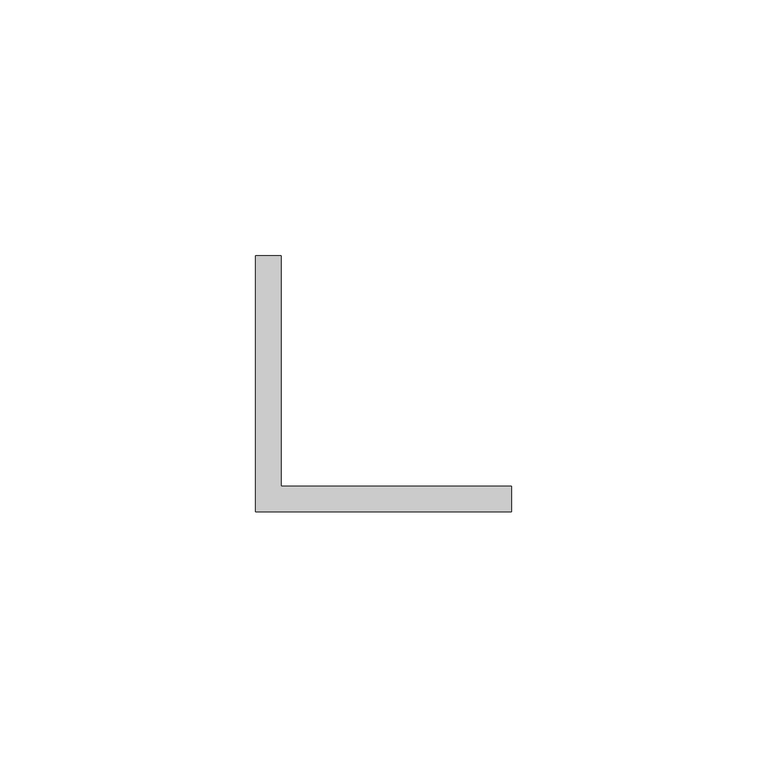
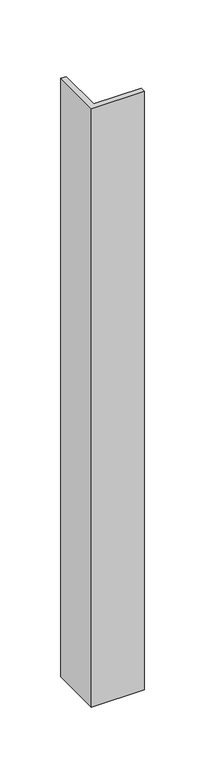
"""IFC4 building model written with IfcOpenShell, lengths in millimetres: proxy geometry, ▲EE_Уголок_стальной : 50х50х5_мм."""

from ifc_helpers import new_model, si_unit, origin, origin_with_axes, place, context, project, spatial, polyline, outline, extrude, source, transform, mapped, element, save


def electrical_equipment_40f9489f(model_context):
    return source(origin(), model_context, "Body", "SweptSolid", [
        extrude(outline(polyline([(0.0, -450.0), (0.0, -400.0), (5.0, -400.0), (5.0, -445.0), (50.0, -445.0), (50.0, -450.0), (0.0, -450.0)])), origin_with_axes(), (0.0, 0.0, 1.0), 600.0),
    ])


if __name__ == "__main__":
    model = new_model("IFC4")
    model_context = context("Model", 3, world=origin())
    ifc_project = project(units=[si_unit("LENGTHUNIT", "METRE", prefix="MILLI")], contexts=[model_context])
    site = spatial("IfcSite", under=ifc_project)
    building = spatial("IfcBuilding", under=site)
    placement = place(None, origin())
    electrical_equipment_shape = electrical_equipment_40f9489f(model_context)
    element("IfcBuildingElementProxy", 1, Name="▲EE_Уголок_стальной : 50х50х5_мм", ObjectType="▲EE_Уголок_стальной : 50х50х5_мм", at=placement, inside=building, context=model_context, shape_type="MappedRepresentation", body=[
        mapped(electrical_equipment_shape, transform((0.0, 0.0, 0.0), x_axis=(1.0, 0.0, 0.0), y_axis=(0.0, 1.0, 0.0), z_axis=(0.0, 0.0, 1.0))),
    ])
    save(model, "model.ifc")
